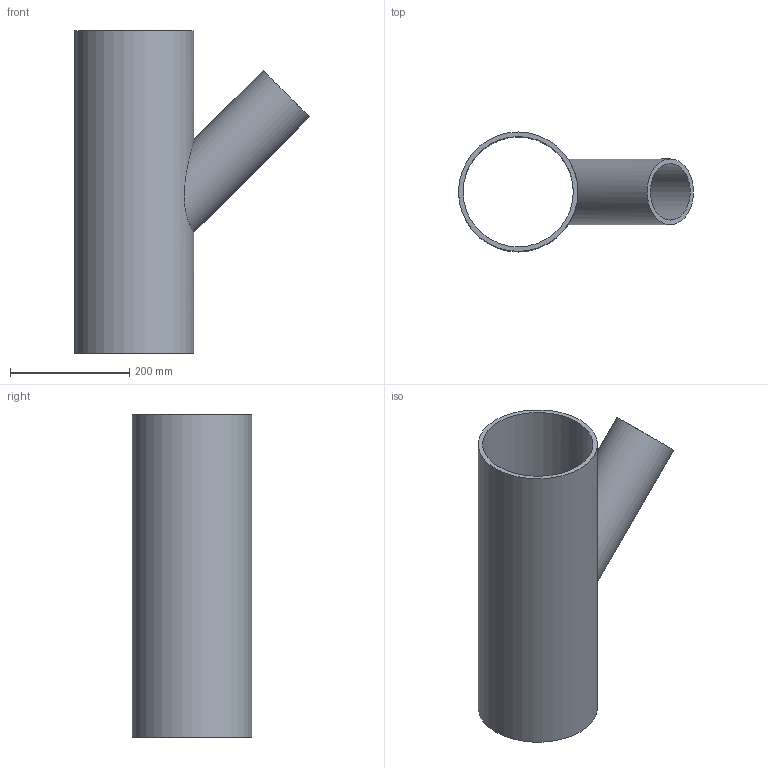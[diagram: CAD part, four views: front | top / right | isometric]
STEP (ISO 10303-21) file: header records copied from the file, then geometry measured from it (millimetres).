
FILE_DESCRIPTION(/* description */ (''),/* implementation_level */ '2;1');
FILE_NAME(/* name */ 'C:\Planerdaten\Export PLA\PRO_101557\stp\370135.stp',/* time_stamp */ '2021-09-30T15:08:35+02:00',/* author */ ('JANAN'),/* organization */ (''),/* preprocessor_version */ 'ST-DEVELOPER v16.13',/* originating_system */ 'Autodesk Inventor 2018',/* authorisation */ '');
FILE_SCHEMA (('AUTOMOTIVE_DESIGN { 1 0 10303 214 3 1 1 }'));
Length unit declared in the file: millimetre
Products named in the file (1): tmpAA3E.tmp
Bounding box: 393.45 x 200 x 540 mm (x, y, z)
Volume: 2997977.6 mm3; surface area: 790260.3 mm2
Topology: 1 solids, 1 shells, 7 faces, 17 edges, 12 vertices
Faces by surface type: cylinder 4, plane 3
Full cylindrical faces by diameter (mm): 94.6 x1, 110 x1, 184.6 x1, 200 x1
Entity records: 336 total; most frequent: CARTESIAN_POINT 158, DIRECTION 28, EDGE_LOOP 16, ORIENTED_EDGE 16, AXIS2_PLACEMENT_3D 14, FACE_BOUND 9, VERTEX_POINT 8, EDGE_CURVE 8
